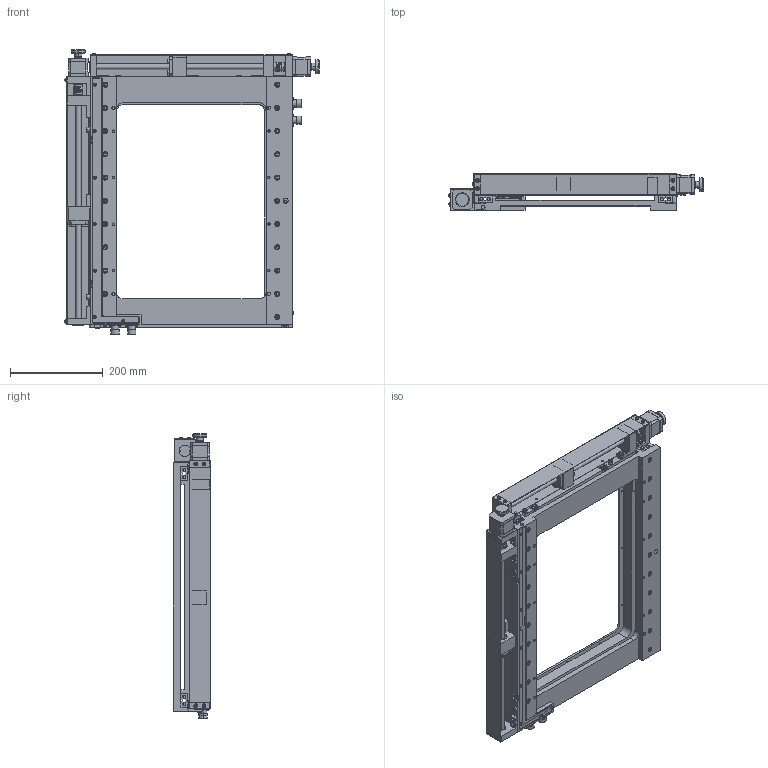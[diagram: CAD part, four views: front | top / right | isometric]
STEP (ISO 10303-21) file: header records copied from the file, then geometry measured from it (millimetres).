
FILE_DESCRIPTION (( 'STEP AP203' ), '1' );
FILE_NAME ('7SWA01200-0萇雄邧粣す痄怢.STEP', '2019-06-10T05:06:23', ( '' ), ( '' ), 'SwSTEP 2.0', 'SolidWorks 2014', '' );
FILE_SCHEMA (( 'CONFIG_CONTROL_DESIGN' ));
Products named in the file (1): 7SWA01200-0萇雄邧粣す痄怢
Bounding box: 546.64 x 80 x 612 mm (x, y, z)
Surface area: 1257964.2 mm2 (no closed solid volume)
Topology: 0 solids, 248 shells, 1854 faces, 7023 edges, 5221 vertices
Faces by surface type: plane 986, cylinder 535, torus 146, cone 130, sphere 54, bspline 3
Entity records: 76684 total; most frequent: CARTESIAN_POINT 16721, DIRECTION 13282, ORIENTED_EDGE 10317, EDGE_CURVE 6951, VERTEX_POINT 5209, AXIS2_PLACEMENT_3D 4839, VECTOR 3604, LINE 3604
